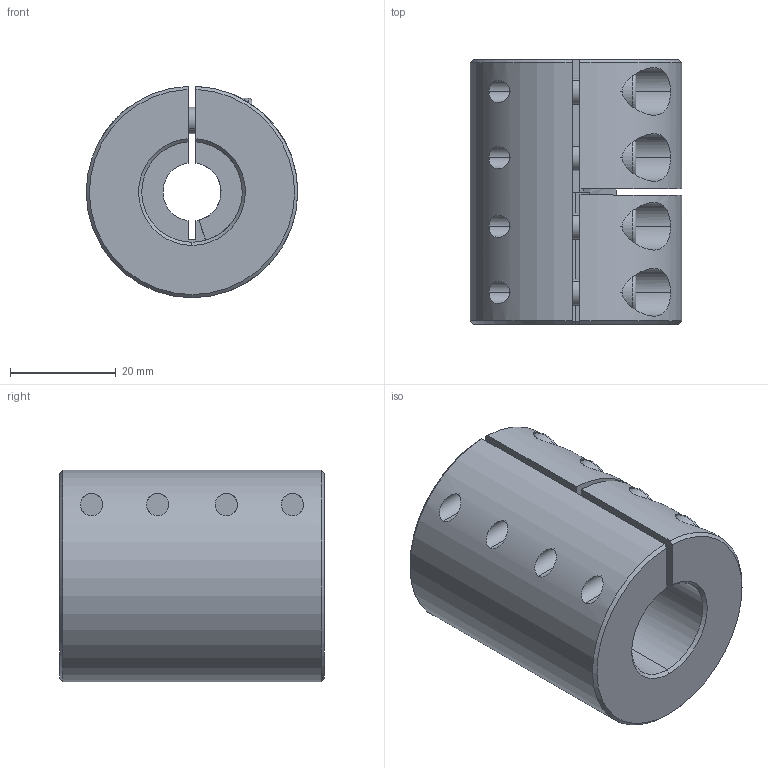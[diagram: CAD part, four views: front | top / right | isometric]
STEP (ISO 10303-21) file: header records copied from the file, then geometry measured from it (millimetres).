
FILE_DESCRIPTION (( 'STEP AP214' ), '1' );
FILE_NAME ('LL-B-D40L50-11-19½¨Ä£.STEP', '2022-07-22T00:20:45', ( '' ), ( '' ), 'SwSTEP 2.0', 'SolidWorks 2022', '' );
FILE_SCHEMA (( 'AUTOMOTIVE_DESIGN' ));
Length unit declared in the file: millimetre
Products named in the file (1): LL-B-D40L50-11-19膘耀
Bounding box: 40 x 50 x 39.99 mm (x, y, z)
Volume: 50257.6 mm3; surface area: 15502.6 mm2
Topology: 1 solids, 1 shells, 181 faces, 459 edges, 288 vertices
Faces by surface type: plane 87, cylinder 71, cone 15, torus 8
Entity records: 5971 total; most frequent: CARTESIAN_POINT 1511, DIRECTION 967, ORIENTED_EDGE 902, EDGE_CURVE 451, AXIS2_PLACEMENT_3D 376, VERTEX_POINT 288, LINE 215, VECTOR 215
